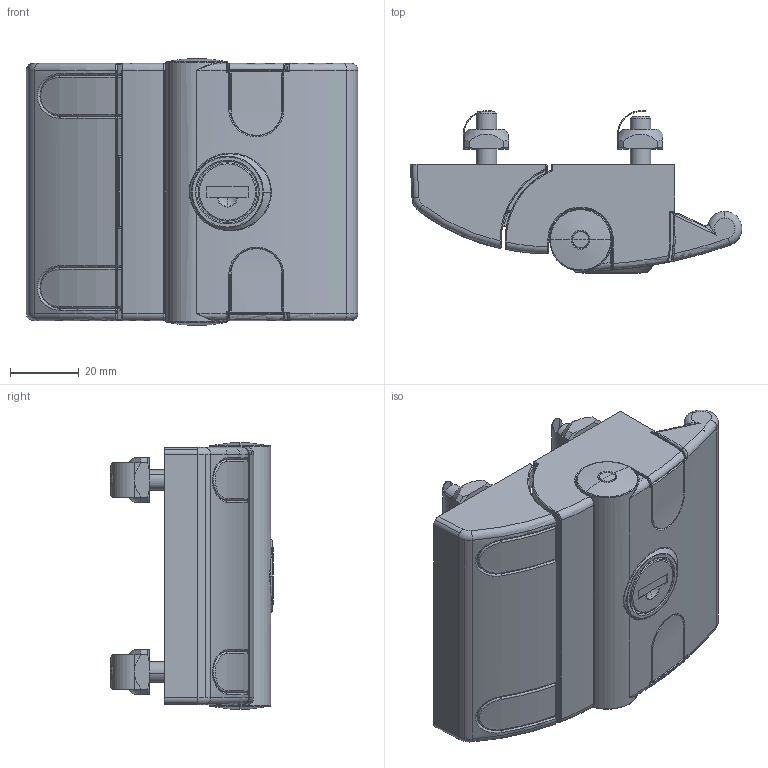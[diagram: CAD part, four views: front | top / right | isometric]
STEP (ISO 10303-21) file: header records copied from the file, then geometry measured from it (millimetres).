
FILE_DESCRIPTION (( 'STEP AP214' ), '1' );
FILE_NAME ('1.4032 Kahvalukkosarja C.STEP', '2025-09-10T10:48:14', ( '' ), ( '' ), 'SwSTEP 2.0', 'SolidWorks 2025', '' );
FILE_SCHEMA (( 'AUTOMOTIVE_DESIGN' ));
Length unit declared in the file: millimetre
Products named in the file (1): 1.4032 Kahvalukkosarja C
Bounding box: 96.66 x 47.35 x 77.81 mm (x, y, z)
Volume: 157853.5 mm3; surface area: 52581.7 mm2
Topology: 16 solids, 16 shells, 783 faces, 1952 edges, 1198 vertices
Faces by surface type: cylinder 282, plane 268, torus 97, bspline 60, cone 46, sphere 30
Entity records: 51322 total; most frequent: CARTESIAN_POINT 24753, ORIENTED_EDGE 3872, DIRECTION 3517, EDGE_CURVE 1936, AXIS2_PLACEMENT_3D 1339, VERTEX_POINT 1198, LINE 839, VECTOR 839
